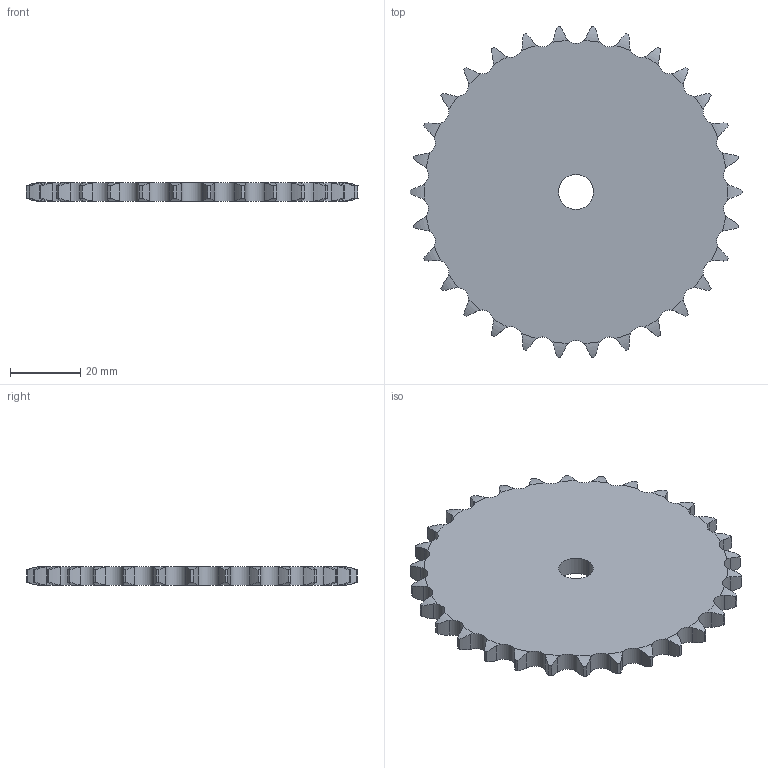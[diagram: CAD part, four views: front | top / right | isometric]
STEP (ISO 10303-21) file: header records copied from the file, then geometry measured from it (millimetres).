
FILE_DESCRIPTION((''),'2;1');
FILE_NAME('500-101-0030_PRT','2021-02-12T',('Brieden'),('Brieden'),'PRO/ENGINEER BY PARAMETRIC TECHNOLOGY CORPORATION, 2010160','PRO/ENGINEER BY PARAMETRIC TECHNOLOGY CORPORATION, 2010160','');
FILE_SCHEMA(('AUTOMOTIVE_DESIGN { 1 0 10303 214 1 1 1 1 }'));
Length unit declared in the file: millimetre
Products named in the file (1): 500-101-0030_PRT
Bounding box: 94.7 x 94.27 x 5.3 mm (x, y, z)
Volume: 31926.8 mm3; surface area: 14424.3 mm2
Topology: 1 solids, 1 shells, 184 faces, 546 edges, 364 vertices
Faces by surface type: cylinder 122, torus 60, plane 2
Entity records: 8840 total; most frequent: CARTESIAN_POINT 2491, ORIENTED_EDGE 1092, DIRECTION 858, PRESENTATION_STYLE_ASSIGNMENT 547, STYLED_ITEM 547, CURVE_STYLE 546, EDGE_CURVE 546, AXIS2_PLACEMENT_3D 368
